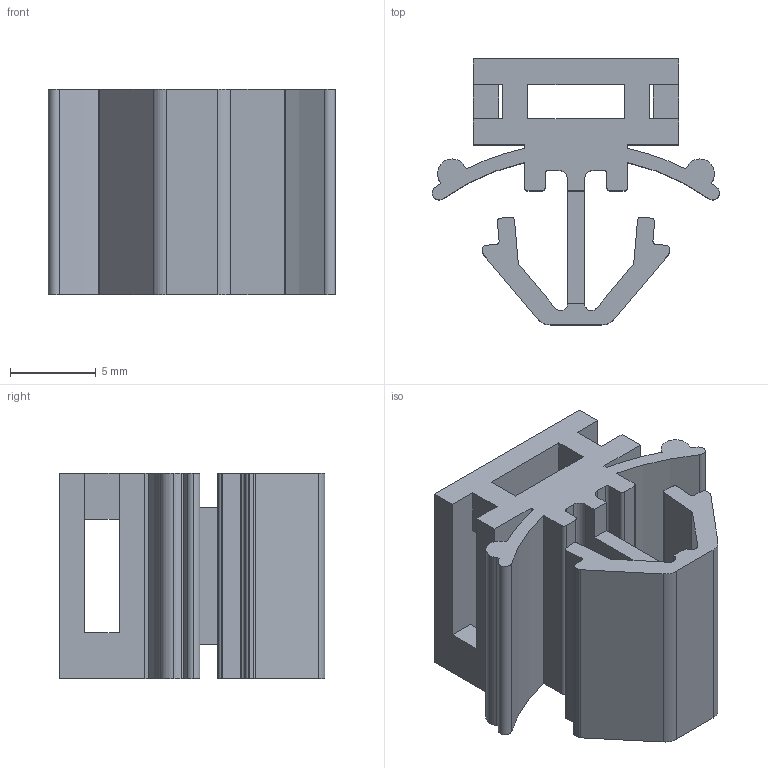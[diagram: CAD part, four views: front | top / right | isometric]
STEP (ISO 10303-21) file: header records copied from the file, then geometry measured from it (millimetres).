
FILE_DESCRIPTION (( 'STEP AP203' ), '1' );
FILE_NAME ('ATC-68-P100.STEP', '2012-03-08T05:23:34', ( ' ' ), ( '' ), 'SwSTEP 2.0', 'SolidWorks 2006303', '' );
FILE_SCHEMA (( 'CONFIG_CONTROL_DESIGN' ));
Length unit declared in the file: millimetre
Products named in the file (1): ATC-68-P100
Bounding box: 16.74 x 15.5 x 12 mm (x, y, z)
Volume: 1062.3 mm3; surface area: 1808 mm2
Topology: 1 solids, 1 shells, 100 faces, 302 edges, 200 vertices
Faces by surface type: plane 60, cylinder 40
Entity records: 3479 total; most frequent: CARTESIAN_POINT 607, ORIENTED_EDGE 604, DIRECTION 580, EDGE_CURVE 302, VECTOR 218, LINE 218, VERTEX_POINT 200, AXIS2_PLACEMENT_3D 181
